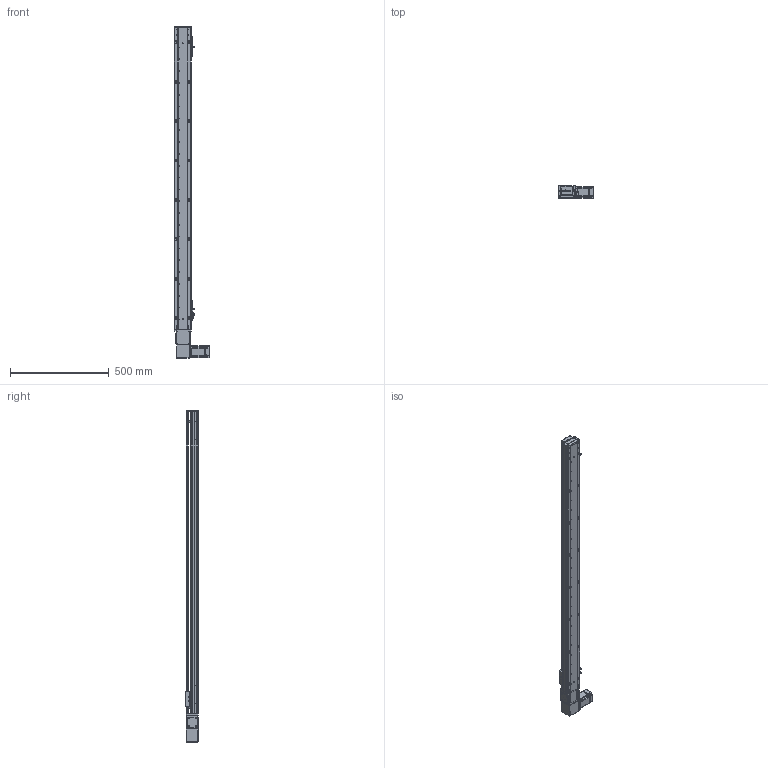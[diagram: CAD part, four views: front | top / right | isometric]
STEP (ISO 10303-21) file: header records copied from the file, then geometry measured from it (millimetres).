
FILE_DESCRIPTION (( 'STEP AP203' ), '1' );
FILE_NAME ('RY80-T-300-RK.SLDASM_1350.step', '2021-03-01T02:07:51', ( '盈信电脑' ), ( '东莞市道滘镇水果街19号' ), 'SwSTEP 2.0', 'SolidWorks 2012', '' );
FILE_SCHEMA (( 'CONFIG_CONTROL_DESIGN' ));
Length unit declared in the file: millimetre
Products named in the file (20): RY100-T粣創揤踡裔; RY80-T-300-RK.SLDASM_1350; RY80-T-M4蹟翐; RY80-T肮祭謫俋欶; RY80-T翋肮祭謫裔啣; 滅袉蝶18-10; RY80-T肮祭湍揤輸2; RY80-T肮祭湍揤輸1; RY80-T粣創揤踡輸; RY80-T萇儂假蚾啣; RY80-T-翋肮祭謫釱; 1; RY80俋离覜茼え; 侂狟200W萇儂; 672嫖萇羲壽假蚾釱; RY80-T綴裔啣; 覜茼ん672; RY80-T-300-RK倰第奻裔啣_1350; RY80-T肮祭謫臏賑輸; RY80-T-300-RK倰第菁釱_1350
Assembly tree (25 placements, depth 3):
  RY80-T-300-RK.SLDASM_1350
    RY80-T-300-RK倰第菁釱_1350
    RY80-T肮祭謫臏賑輸
    RY80-T-300-RK倰第奻裔啣_1350
    RY80-T綴裔啣
    672嫖萇羲壽假蚾釱  x2
    覜茼ん672  x3
    RY80俋离覜茼え
    侂狟200W萇儂
      1
    RY80-T-翋肮祭謫釱
    RY80-T萇儂假蚾啣
    RY80-T肮祭湍揤輸1
    RY80-T肮祭湍揤輸2
    RY80-T粣創揤踡輸
    RY80-T-M4蹟翐  x2
    RY80-T翋肮祭謫裔啣  x2
    RY80-T肮祭謫俋欶
    滅袉蝶18-10  x2
    RY100-T粣創揤踡裔
Bounding box: 180 x 65 x 1685 mm (x, y, z)
Volume: 2646741.4 mm3; surface area: 1118036.4 mm2
Topology: 24 solids, 24 shells, 2539 faces, 7008 edges, 4555 vertices
Faces by surface type: plane 1340, cylinder 993, cone 150, bspline 56
Entity records: 80374 total; most frequent: CARTESIAN_POINT 19659, ORIENTED_EDGE 12460, DIRECTION 11710, EDGE_CURVE 6230, VERTEX_POINT 4096, AXIS2_PLACEMENT_3D 3963, VECTOR 3784, LINE 3784
